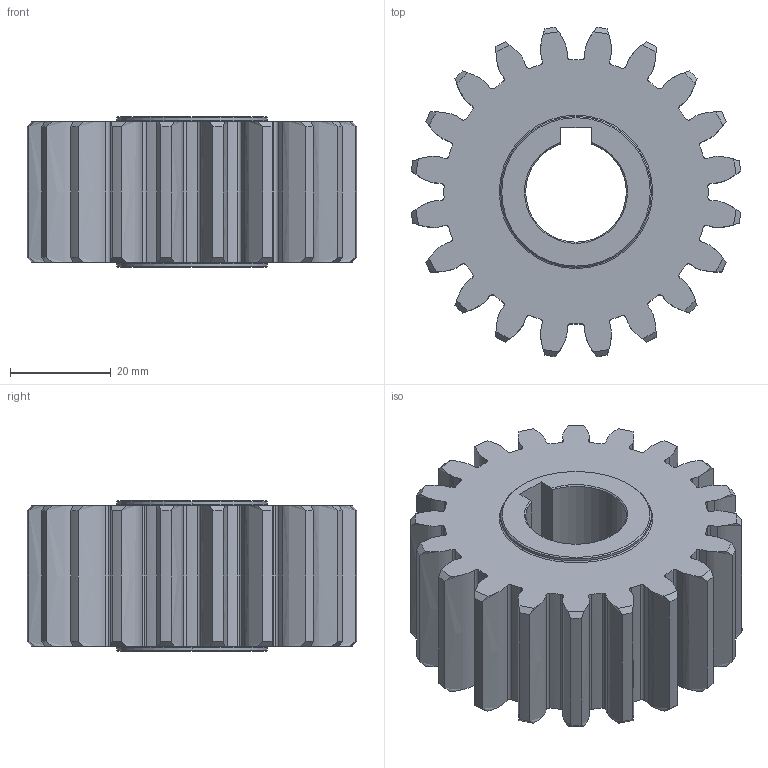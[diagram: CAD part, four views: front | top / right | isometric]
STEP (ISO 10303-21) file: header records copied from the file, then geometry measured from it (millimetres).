
FILE_DESCRIPTION (( 'STEP AP214' ), '1' );
FILE_NAME ('1SG__S030020S.STEP', '2021-08-03T07:38:05', ( '' ), ( '' ), 'SwSTEP 2.0', 'SolidWorks 2021', '' );
FILE_SCHEMA (( 'AUTOMOTIVE_DESIGN' ));
Length unit declared in the file: millimetre
Products named in the file (1): 1SG__S030020S
Bounding box: 65.48 x 65.48 x 30 mm (x, y, z)
Volume: 68700.7 mm3; surface area: 17752.3 mm2
Topology: 1 solids, 1 shells, 218 faces, 670 edges, 456 vertices
Faces by surface type: cylinder 77, bspline 60, cone 50, plane 27, torus 4
Entity records: 13212 total; most frequent: CARTESIAN_POINT 7417, ORIENTED_EDGE 1340, DIRECTION 1076, EDGE_CURVE 670, VERTEX_POINT 456, AXIS2_PLACEMENT_3D 411, VECTOR 254, LINE 254
